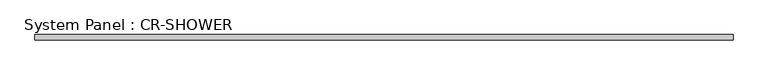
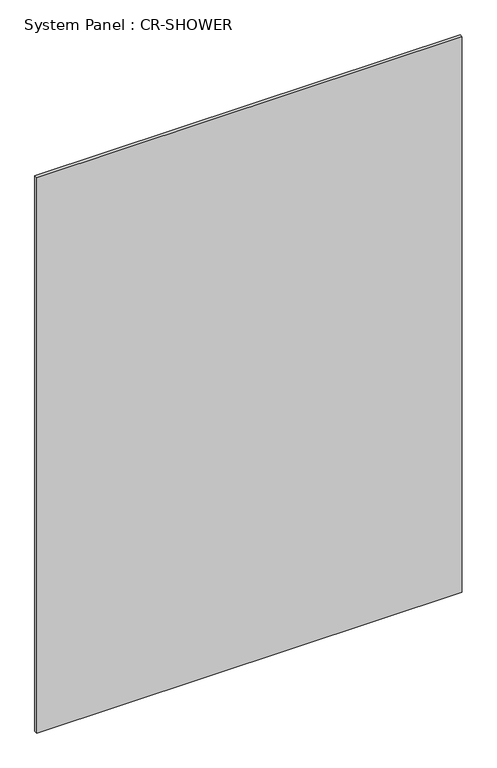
"""IFC4 building model written with IfcOpenShell, lengths in millimetres: plate geometry, System Panel : CR-SHOWER."""

from ifc_helpers import new_model, si_unit, origin, origin_with_axes, place, context, project, spatial, polyline, outline, extrude, source, transform, mapped, element, save


def system_panel_cr_shower_402713e2(model_context):
    return source(origin(), model_context, "Body", "SweptSolid", [
        extrude(outline(polyline([(822.6666667, -12.45), (-822.6666667, -12.45), (-822.6666667, 0.05), (822.6666667, 0.05), (822.6666667, -12.45)])), origin_with_axes(), (0.0, 0.0, 1.0), 2270.0),
    ])


if __name__ == "__main__":
    model = new_model("IFC4")
    model_context = context("Model", 3, world=origin())
    ifc_project = project(units=[si_unit("LENGTHUNIT", "METRE", prefix="MILLI")], contexts=[model_context])
    site = spatial("IfcSite", under=ifc_project)
    building = spatial("IfcBuilding", under=site)
    placement = place(None, origin())
    system_panel_cr_shower_shape = system_panel_cr_shower_402713e2(model_context)
    element("IfcPlate", 1, ObjectType="System Panel : CR-SHOWER", at=placement, inside=building, context=model_context, shape_type="MappedRepresentation", body=[
        mapped(system_panel_cr_shower_shape, transform((0.0, 0.0, 0.0), x_axis=(1.0, 0.0, 0.0), y_axis=(0.0, 1.0, 0.0), z_axis=(0.0, 0.0, 1.0))),
    ])
    save(model, "model.ifc")
